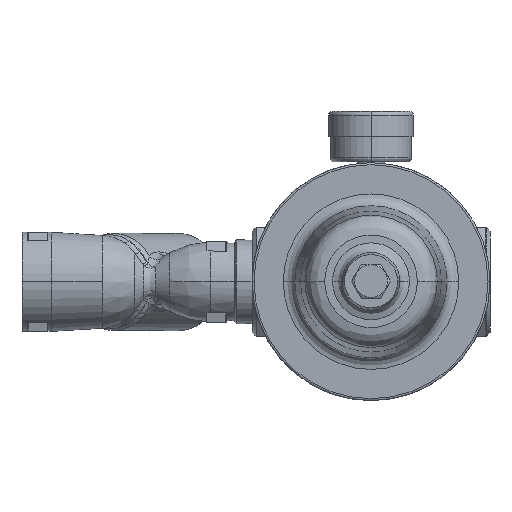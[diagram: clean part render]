
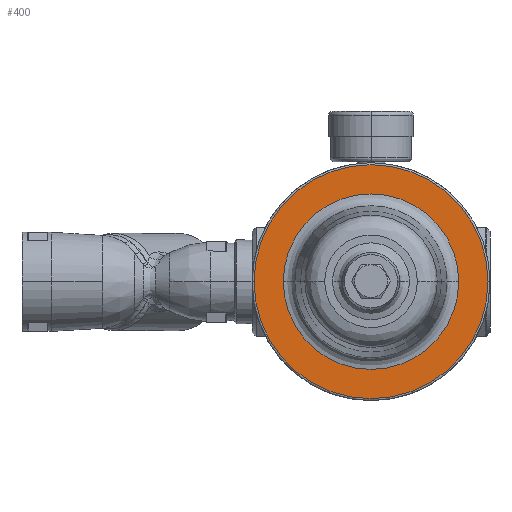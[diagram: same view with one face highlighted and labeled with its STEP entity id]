
A CAD part, top view. The second image highlights one B-rep face of the part: STEP entity #400.
In plain terms, the highlighted planar face has unit normal (0, 0, 1).
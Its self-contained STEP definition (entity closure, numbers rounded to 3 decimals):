
#400=ADVANCED_FACE('',(#3497,#3498),#3496,.F.);
#3496=PLANE('',#11102);
#3497=FACE_OUTER_BOUND('',#11103,.T.);
#3498=FACE_BOUND('',#11104,.T.);
#11099=CARTESIAN_POINT('',(128.,-112.191,57.));
#11100=DIRECTION('',(0.,0.,-1.));
#11101=DIRECTION('',(-1.,0.,0.));
#11102=AXIS2_PLACEMENT_3D('',#11099,#11100,#11101);
#11103=EDGE_LOOP('',(#14466,#14467));
#11104=EDGE_LOOP('',(#14468,#14469));
#14466=ORIENTED_EDGE('',*,*,#16323,.T.);
#14467=ORIENTED_EDGE('',*,*,#16324,.T.);
#14468=ORIENTED_EDGE('',*,*,#16325,.T.);
#14469=ORIENTED_EDGE('',*,*,#16326,.T.);
#16323=EDGE_CURVE('',#22254,#22255,#22256,.T.);
#16324=EDGE_CURVE('',#22255,#22254,#22262,.T.);
#16325=EDGE_CURVE('',#22268,#22269,#22270,.T.);
#16326=EDGE_CURVE('',#22269,#22268,#22276,.T.);
#22254=VERTEX_POINT('',#30080);
#22255=VERTEX_POINT('',#30081);
#22256=CIRCLE('',#30085,59.);
#22262=CIRCLE('',#30089,59.);
#22268=VERTEX_POINT('',#30090);
#22269=VERTEX_POINT('',#30091);
#22270=CIRCLE('',#30095,44.248);
#22276=CIRCLE('',#30099,44.248);
#30080=CARTESIAN_POINT('',(-59.,0.,57.));
#30081=CARTESIAN_POINT('',(59.,0.,57.));
#30082=CARTESIAN_POINT('',(0.,0.,57.));
#30083=DIRECTION('',(0.,0.,1.));
#30084=DIRECTION('',(-1.,0.,0.));
#30085=AXIS2_PLACEMENT_3D('',#30082,#30083,#30084);
#30086=CARTESIAN_POINT('',(0.,0.,57.));
#30087=DIRECTION('',(0.,0.,1.));
#30088=DIRECTION('',(-1.,0.,0.));
#30089=AXIS2_PLACEMENT_3D('',#30086,#30087,#30088);
#30090=CARTESIAN_POINT('',(-44.248,0.,57.));
#30091=CARTESIAN_POINT('',(44.248,0.,57.));
#30092=CARTESIAN_POINT('',(0.,0.,57.));
#30093=DIRECTION('',(0.,0.,-1.));
#30094=DIRECTION('',(-1.,0.,0.));
#30095=AXIS2_PLACEMENT_3D('',#30092,#30093,#30094);
#30096=CARTESIAN_POINT('',(0.,0.,57.));
#30097=DIRECTION('',(0.,0.,-1.));
#30098=DIRECTION('',(-1.,0.,0.));
#30099=AXIS2_PLACEMENT_3D('',#30096,#30097,#30098);
